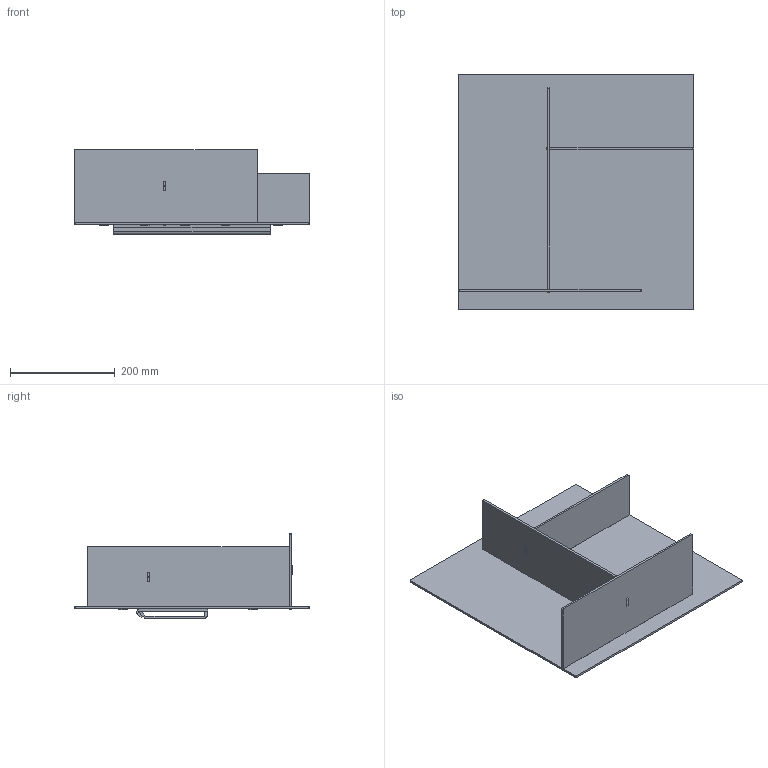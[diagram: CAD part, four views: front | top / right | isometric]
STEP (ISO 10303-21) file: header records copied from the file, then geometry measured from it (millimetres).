
FILE_DESCRIPTION(/* description */ (''),/* implementation_level */ '2;1');
FILE_NAME(/* name */ 'RIVETT~1',/* time_stamp */ '2019-09-06T12:01:38+02:00',/* author */ (''),/* organization */ (''),/* preprocessor_version */ 'ST-DEVELOPER v15',/* originating_system */ '',/* authorisation */ '');
FILE_SCHEMA (('CONFIG_CONTROL_DESIGN'));
Length unit declared in the file: millimetre
Products named in the file (7): Typecase 45x45 C01; horisontal top shelf; Wall plate; vertical divider; Wall plate placed on shelf; Bade plate; horisontal base shelf
Assembly tree (6 placements, depth 2):
  Typecase 45x45 C01
    horisontal top shelf
    Wall plate
    vertical divider
    Wall plate placed on shelf
    Bade plate
    horisontal base shelf
Bounding box: 450 x 450 x 162.13 mm (x, y, z)
Volume: 1633825.5 mm3; surface area: 845771.6 mm2
Topology: 6 solids, 6 shells, 254 faces, 718 edges, 476 vertices
Faces by surface type: bspline 254
Entity records: 16964 total; most frequent: CARTESIAN_POINT 7075, B_SPLINE_CURVE_WITH_KNOTS 1954, ORIENTED_EDGE 1436, PCURVE 1436, DEFINITIONAL_REPRESENTATION 1436, SURFACE_CURVE 718, EDGE_CURVE 718, VERTEX_POINT 476
